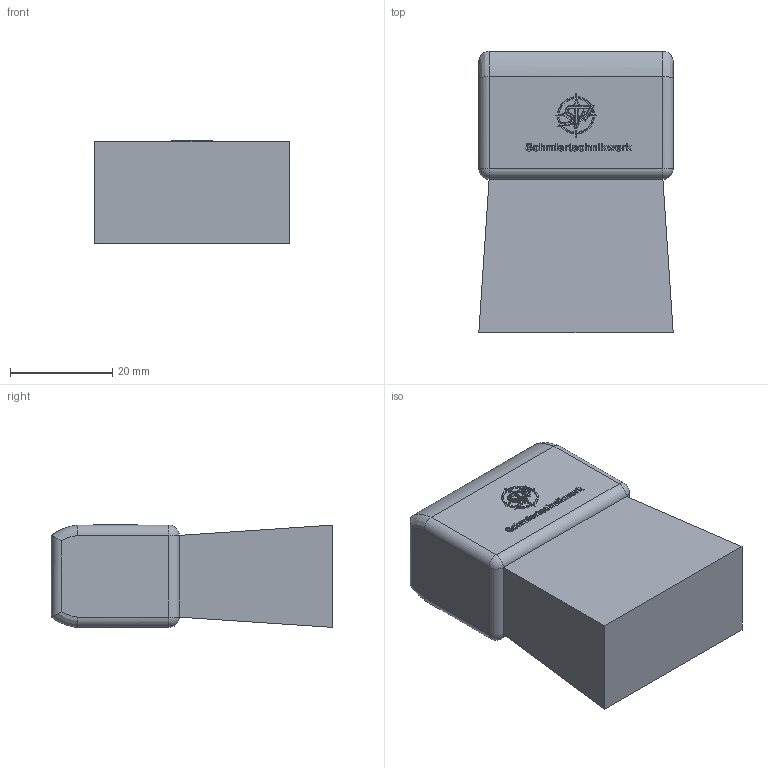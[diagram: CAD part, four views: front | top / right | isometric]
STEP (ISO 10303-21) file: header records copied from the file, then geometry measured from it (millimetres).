
FILE_DESCRIPTION (( 'STEP AP203' ), '1' );
FILE_NAME ('012 5038 0130 50_Flach_Schmierpinsel.STEP', '2025-06-16T09:29:33', ( '' ), ( '' ), 'SwSTEP 2.0', 'SolidWorks 2022', '' );
FILE_SCHEMA (( 'CONFIG_CONTROL_DESIGN' ));
Length unit declared in the file: millimetre
Products named in the file (3): 012 5038 0130 50_Flach_Schmierpinsel; STW_LOGO
Assembly tree (2 placements, depth 2):
  012 5038 0130 50_Flach_Schmierpinsel
    012 5038 0130 50_Flach_Schmierpinsel
    STW_LOGO
Bounding box: 38 x 55 x 20.1 mm (x, y, z)
Volume: 36009.6 mm3; surface area: 8700.6 mm2
Topology: 17 solids, 17 shells, 449 faces, 1150 edges, 755 vertices
Faces by surface type: plane 253, bspline 105, cylinder 85, sphere 4, cone 2
Full cylindrical faces by diameter (mm): 8 x1, 8.8 x7
Entity records: 20461 total; most frequent: CARTESIAN_POINT 10116, ORIENTED_EDGE 2242, DIRECTION 1730, EDGE_CURVE 1121, LINE 750, VECTOR 750, VERTEX_POINT 740, AXIS2_PLACEMENT_3D 490
